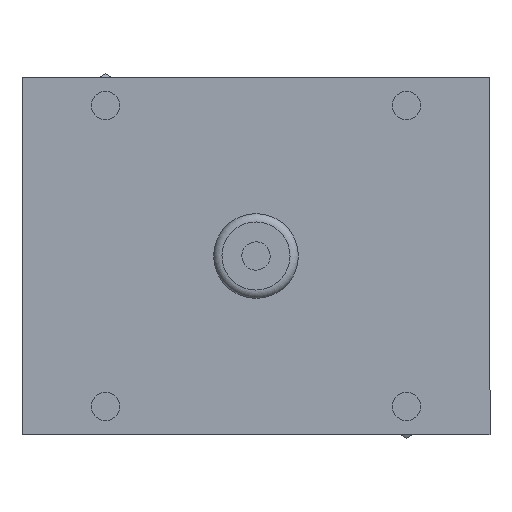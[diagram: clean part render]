
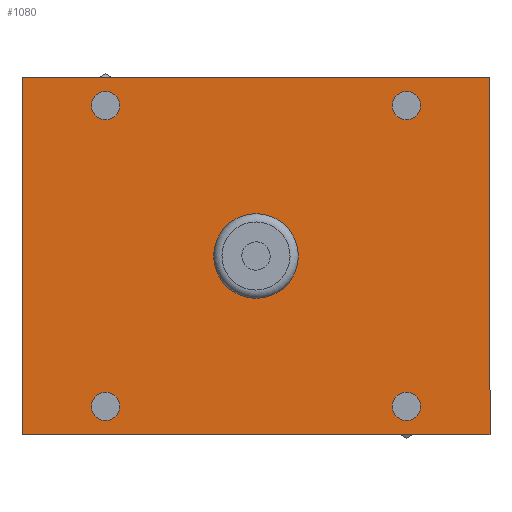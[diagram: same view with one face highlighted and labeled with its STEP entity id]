
A CAD part, front view. The second image highlights one B-rep face of the part: STEP entity #1080.
In plain terms, the highlighted planar face has unit normal (0, -1, 0).
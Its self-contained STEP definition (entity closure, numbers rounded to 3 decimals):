
#970=CARTESIAN_POINT('',(0.,0.,-9.936));
#971=VERTEX_POINT('',#970);
#972=CARTESIAN_POINT('',(0.,0.0,0.));
#973=DIRECTION('',(0.0,1.0,0.0));
#974=DIRECTION('',(0.0,0.0,1.0));
#975=AXIS2_PLACEMENT_3D('',#972,#973,#974);
#976=CIRCLE('',#975,9.936);
#977=EDGE_CURVE('',#971,#971,#976,.T.);
#994=CARTESIAN_POINT('',(0.,0.,0.));
#995=DIRECTION('',(0.0,1.0,0.0));
#996=DIRECTION('',(0.0,0.0,-1.0));
#997=AXIS2_PLACEMENT_3D('',#994,#995,#996);
#998=PLANE('',#997);
#999=CARTESIAN_POINT('',(-55.,0.,42.));
#1000=VERTEX_POINT('',#999);
#1001=CARTESIAN_POINT('',(-55.,0.,-42.));
#1002=VERTEX_POINT('',#1001);
#1003=CARTESIAN_POINT('',(-55.,0.,42.));
#1004=DIRECTION('',(0.0,0.0,-1.0));
#1005=VECTOR('',#1004,84.);
#1006=LINE('',#1003,#1005);
#1007=EDGE_CURVE('',#1000,#1002,#1006,.T.);
#1008=ORIENTED_EDGE('',*,*,#1007,.T.);
#1009=CARTESIAN_POINT('',(55.,0.,-42.));
#1010=VERTEX_POINT('',#1009);
#1011=CARTESIAN_POINT('',(-55.,0.,-42.));
#1012=DIRECTION('',(1.0,0.0,0.0));
#1013=VECTOR('',#1012,110.);
#1014=LINE('',#1011,#1013);
#1015=EDGE_CURVE('',#1002,#1010,#1014,.T.);
#1016=ORIENTED_EDGE('',*,*,#1015,.T.);
#1017=CARTESIAN_POINT('',(55.,0.,42.));
#1018=VERTEX_POINT('',#1017);
#1019=CARTESIAN_POINT('',(55.,0.,-42.));
#1020=DIRECTION('',(0.0,0.0,1.0));
#1021=VECTOR('',#1020,84.0);
#1022=LINE('',#1019,#1021);
#1023=EDGE_CURVE('',#1010,#1018,#1022,.T.);
#1024=ORIENTED_EDGE('',*,*,#1023,.T.);
#1025=CARTESIAN_POINT('',(55.,0.,42.));
#1026=DIRECTION('',(-1.0,0.0,0.0));
#1027=VECTOR('',#1026,110.0);
#1028=LINE('',#1025,#1027);
#1029=EDGE_CURVE('',#1018,#1000,#1028,.T.);
#1030=ORIENTED_EDGE('',*,*,#1029,.T.);
#1031=EDGE_LOOP('',(#1008,#1016,#1024,#1030));
#1032=FACE_OUTER_BOUND('',#1031,.T.);
#1033=CARTESIAN_POINT('',(-35.355,0.,-32.032));
#1034=VERTEX_POINT('',#1033);
#1035=CARTESIAN_POINT('',(-35.355,0.,-35.355));
#1036=DIRECTION('',(0.0,1.0,0.0));
#1037=DIRECTION('',(0.0,0.0,1.0));
#1038=AXIS2_PLACEMENT_3D('',#1035,#1036,#1037);
#1039=CIRCLE('',#1038,3.324);
#1040=EDGE_CURVE('',#1034,#1034,#1039,.T.);
#1041=ORIENTED_EDGE('',*,*,#1040,.T.);
#1042=EDGE_LOOP('',(#1041));
#1043=FACE_BOUND('',#1042,.T.);
#1044=CARTESIAN_POINT('',(35.355,0.,-32.032));
#1045=VERTEX_POINT('',#1044);
#1046=CARTESIAN_POINT('',(35.355,0.,-35.355));
#1047=DIRECTION('',(0.0,1.0,0.0));
#1048=DIRECTION('',(0.0,0.0,1.0));
#1049=AXIS2_PLACEMENT_3D('',#1046,#1047,#1048);
#1050=CIRCLE('',#1049,3.324);
#1051=EDGE_CURVE('',#1045,#1045,#1050,.T.);
#1052=ORIENTED_EDGE('',*,*,#1051,.T.);
#1053=EDGE_LOOP('',(#1052));
#1054=FACE_BOUND('',#1053,.T.);
#1055=CARTESIAN_POINT('',(35.355,0.,38.679));
#1056=VERTEX_POINT('',#1055);
#1057=CARTESIAN_POINT('',(35.355,0.,35.355));
#1058=DIRECTION('',(0.0,1.0,0.0));
#1059=DIRECTION('',(0.0,0.0,1.0));
#1060=AXIS2_PLACEMENT_3D('',#1057,#1058,#1059);
#1061=CIRCLE('',#1060,3.324);
#1062=EDGE_CURVE('',#1056,#1056,#1061,.T.);
#1063=ORIENTED_EDGE('',*,*,#1062,.T.);
#1064=EDGE_LOOP('',(#1063));
#1065=FACE_BOUND('',#1064,.T.);
#1066=CARTESIAN_POINT('',(-35.355,0.,38.679));
#1067=VERTEX_POINT('',#1066);
#1068=CARTESIAN_POINT('',(-35.355,0.,35.355));
#1069=DIRECTION('',(0.0,1.0,0.0));
#1070=DIRECTION('',(0.0,0.0,1.0));
#1071=AXIS2_PLACEMENT_3D('',#1068,#1069,#1070);
#1072=CIRCLE('',#1071,3.324);
#1073=EDGE_CURVE('',#1067,#1067,#1072,.T.);
#1074=ORIENTED_EDGE('',*,*,#1073,.T.);
#1075=EDGE_LOOP('',(#1074));
#1076=FACE_BOUND('',#1075,.T.);
#1077=ORIENTED_EDGE('',*,*,#977,.T.);
#1078=EDGE_LOOP('',(#1077));
#1079=FACE_BOUND('',#1078,.T.);
#1080=ADVANCED_FACE('',(#1032,#1043,#1054,#1065,#1076,#1079),#998,.F.);
